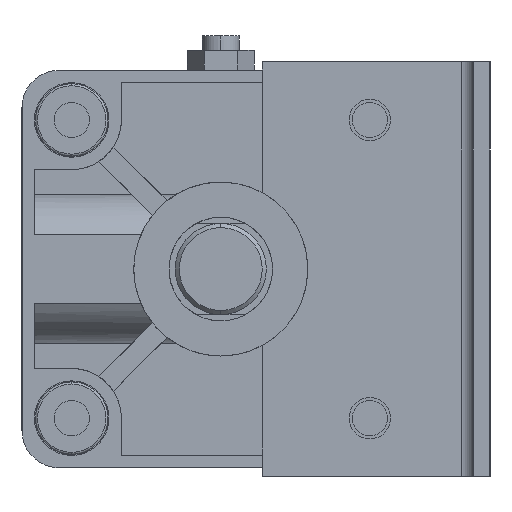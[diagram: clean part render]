
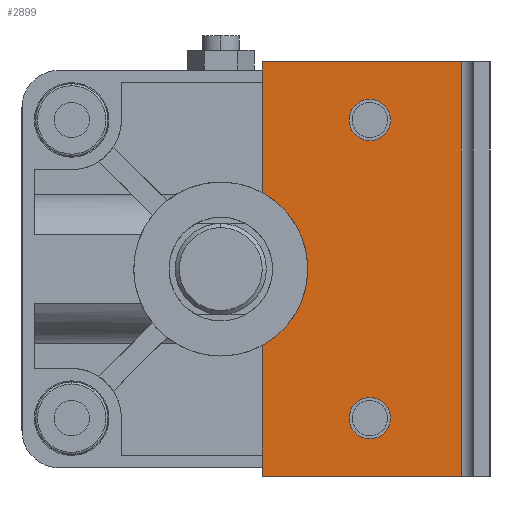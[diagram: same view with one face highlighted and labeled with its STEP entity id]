
A CAD part, left-side view. The second image highlights one B-rep face of the part: STEP entity #2899.
In plain terms, the highlighted planar face has unit normal (-1, 0, 0) as drawn and (0, 0, 1) by its records, which use the part's own axes.
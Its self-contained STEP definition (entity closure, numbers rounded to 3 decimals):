
#82 = DIRECTION ( 'NONE',  ( 0., 0., 1. ) ) ;
#149 = VECTOR ( 'NONE', #5124, 1000. ) ;
#363 = VERTEX_POINT ( 'NONE', #2419 ) ;
#699 = DIRECTION ( 'NONE',  ( 0., 0., 1. ) ) ;
#878 = AXIS2_PLACEMENT_3D ( 'NONE', #9876, #10026, #7556 ) ;
#1050 = DIRECTION ( 'NONE',  ( 1., 0., 0. ) ) ;
#1132 = ORIENTED_EDGE ( 'NONE', *, *, #4170, .F. ) ;
#1182 = EDGE_CURVE ( 'NONE', #3997, #5194, #3496, .T. ) ;
#1328 = CARTESIAN_POINT ( 'NONE',  ( 50., -10., 0. ) ) ;
#1488 = CARTESIAN_POINT ( 'NONE',  ( -50., -37.5, 0. ) ) ;
#1541 = AXIS2_PLACEMENT_3D ( 'NONE', #7783, #82, #2530 ) ;
#1641 = CARTESIAN_POINT ( 'NONE',  ( -50., -58., 0. ) ) ;
#1741 = ORIENTED_EDGE ( 'NONE', *, *, #4202, .F. ) ;
#1871 = CARTESIAN_POINT ( 'NONE',  ( 0., -10., 0. ) ) ;
#2021 = AXIS2_PLACEMENT_3D ( 'NONE', #9853, #3078, #5727 ) ;
#2081 = CARTESIAN_POINT ( 'NONE',  ( 41., -36., 0. ) ) ;
#2288 = VERTEX_POINT ( 'NONE', #2081 ) ;
#2356 = CARTESIAN_POINT ( 'NONE',  ( 0., 0., 0. ) ) ;
#2419 = CARTESIAN_POINT ( 'NONE',  ( -31., -36., 0. ) ) ;
#2530 = DIRECTION ( 'NONE',  ( 1., 0., 0. ) ) ;
#2554 = VECTOR ( 'NONE', #5077, 1000. ) ;
#2740 = ORIENTED_EDGE ( 'NONE', *, *, #9484, .F. ) ;
#2819 = DIRECTION ( 'NONE',  ( -1., 0., 0. ) ) ;
#2832 = AXIS2_PLACEMENT_3D ( 'NONE', #7239, #699, #8049 ) ;
#2899 = ADVANCED_FACE ( 'NONE', ( #4106, #8343, #8532 ), #9707, .T. ) ;
#2921 = VERTEX_POINT ( 'NONE', #1328 ) ;
#2974 = CARTESIAN_POINT ( 'NONE',  ( 0., -58., 0. ) ) ;
#3078 = DIRECTION ( 'NONE',  ( 0., 0., 1. ) ) ;
#3095 = CARTESIAN_POINT ( 'NONE',  ( -18.466, -10., 0. ) ) ;
#3121 = DIRECTION ( 'NONE',  ( 0., 0., 1. ) ) ;
#3496 = LINE ( 'NONE', #2974, #9931 ) ;
#3699 = EDGE_CURVE ( 'NONE', #8195, #363, #4755, .T. ) ;
#3709 = ORIENTED_EDGE ( 'NONE', *, *, #3699, .F. ) ;
#3791 = DIRECTION ( 'NONE',  ( 1., 0., 0. ) ) ;
#3795 = CIRCLE ( 'NONE', #6709, 5. ) ;
#3997 = VERTEX_POINT ( 'NONE', #9212 ) ;
#4004 = CIRCLE ( 'NONE', #6916, 21. ) ;
#4106 = FACE_BOUND ( 'NONE', #5013, .T. ) ;
#4170 = EDGE_CURVE ( 'NONE', #8523, #2288, #4794, .T. ) ;
#4202 = EDGE_CURVE ( 'NONE', #5194, #8129, #6898, .T. ) ;
#4717 = ORIENTED_EDGE ( 'NONE', *, *, #5374, .F. ) ;
#4731 = LINE ( 'NONE', #9868, #9691 ) ;
#4755 = CIRCLE ( 'NONE', #2021, 5. ) ;
#4794 = CIRCLE ( 'NONE', #878, 5. ) ;
#4841 = ORIENTED_EDGE ( 'NONE', *, *, #7346, .T. ) ;
#4975 = CARTESIAN_POINT ( 'NONE',  ( 0., -10., 0. ) ) ;
#5013 = EDGE_LOOP ( 'NONE', ( #2740, #1132 ) ) ;
#5077 = DIRECTION ( 'NONE',  ( 0., 1., 0. ) ) ;
#5124 = DIRECTION ( 'NONE',  ( -1., 0., 0. ) ) ;
#5145 = EDGE_LOOP ( 'NONE', ( #9514, #3709 ) ) ;
#5194 = VERTEX_POINT ( 'NONE', #1641 ) ;
#5374 = EDGE_CURVE ( 'NONE', #2921, #3997, #4731, .T. ) ;
#5411 = DIRECTION ( 'NONE',  ( 0., -1., 0. ) ) ;
#5727 = DIRECTION ( 'NONE',  ( 1., 0., 0. ) ) ;
#5950 = EDGE_CURVE ( 'NONE', #363, #8195, #7129, .T. ) ;
#5951 = EDGE_CURVE ( 'NONE', #8102, #8129, #6638, .T. ) ;
#6067 = VERTEX_POINT ( 'NONE', #9428 ) ;
#6255 = VECTOR ( 'NONE', #8420, 1000. ) ;
#6416 = CARTESIAN_POINT ( 'NONE',  ( 36., -36., 0. ) ) ;
#6449 = DIRECTION ( 'NONE',  ( 0., 0., -1. ) ) ;
#6638 = LINE ( 'NONE', #4975, #6255 ) ;
#6709 = AXIS2_PLACEMENT_3D ( 'NONE', #6416, #3121, #3791 ) ;
#6759 = CARTESIAN_POINT ( 'NONE',  ( 31., -36., 0. ) ) ;
#6793 = EDGE_CURVE ( 'NONE', #2921, #6067, #7284, .T. ) ;
#6898 = LINE ( 'NONE', #1488, #2554 ) ;
#6916 = AXIS2_PLACEMENT_3D ( 'NONE', #2356, #6449, #1050 ) ;
#7129 = CIRCLE ( 'NONE', #1541, 5. ) ;
#7239 = CARTESIAN_POINT ( 'NONE',  ( -50., -58., 0. ) ) ;
#7284 = LINE ( 'NONE', #1871, #149 ) ;
#7346 = EDGE_CURVE ( 'NONE', #6067, #8102, #4004, .T. ) ;
#7556 = DIRECTION ( 'NONE',  ( 1., 0., 0. ) ) ;
#7783 = CARTESIAN_POINT ( 'NONE',  ( -36., -36., 0. ) ) ;
#8049 = DIRECTION ( 'NONE',  ( 1., 0., 0. ) ) ;
#8102 = VERTEX_POINT ( 'NONE', #3095 ) ;
#8129 = VERTEX_POINT ( 'NONE', #9711 ) ;
#8195 = VERTEX_POINT ( 'NONE', #9400 ) ;
#8343 = FACE_BOUND ( 'NONE', #5145, .T. ) ;
#8420 = DIRECTION ( 'NONE',  ( -1., 0., 0. ) ) ;
#8523 = VERTEX_POINT ( 'NONE', #6759 ) ;
#8532 = FACE_OUTER_BOUND ( 'NONE', #8836, .T. ) ;
#8836 = EDGE_LOOP ( 'NONE', ( #4841, #9647, #1741, #9123, #4717, #9965 ) ) ;
#9123 = ORIENTED_EDGE ( 'NONE', *, *, #1182, .F. ) ;
#9212 = CARTESIAN_POINT ( 'NONE',  ( 50., -58., 0. ) ) ;
#9400 = CARTESIAN_POINT ( 'NONE',  ( -41., -36., 0. ) ) ;
#9428 = CARTESIAN_POINT ( 'NONE',  ( 18.466, -10., 0. ) ) ;
#9484 = EDGE_CURVE ( 'NONE', #2288, #8523, #3795, .T. ) ;
#9514 = ORIENTED_EDGE ( 'NONE', *, *, #5950, .F. ) ;
#9647 = ORIENTED_EDGE ( 'NONE', *, *, #5951, .T. ) ;
#9691 = VECTOR ( 'NONE', #5411, 1000. ) ;
#9707 = PLANE ( 'NONE',  #2832 ) ;
#9711 = CARTESIAN_POINT ( 'NONE',  ( -50., -10., 0. ) ) ;
#9853 = CARTESIAN_POINT ( 'NONE',  ( -36., -36., 0. ) ) ;
#9868 = CARTESIAN_POINT ( 'NONE',  ( 50., -37.5, 0. ) ) ;
#9876 = CARTESIAN_POINT ( 'NONE',  ( 36., -36., 0. ) ) ;
#9931 = VECTOR ( 'NONE', #2819, 1000. ) ;
#9965 = ORIENTED_EDGE ( 'NONE', *, *, #6793, .T. ) ;
#10026 = DIRECTION ( 'NONE',  ( 0., 0., 1. ) ) ;
